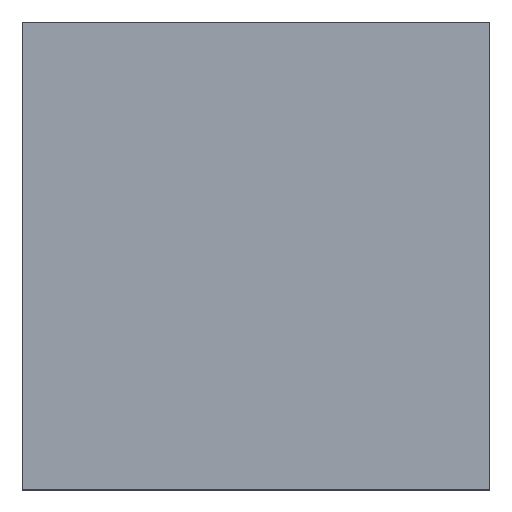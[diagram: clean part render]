
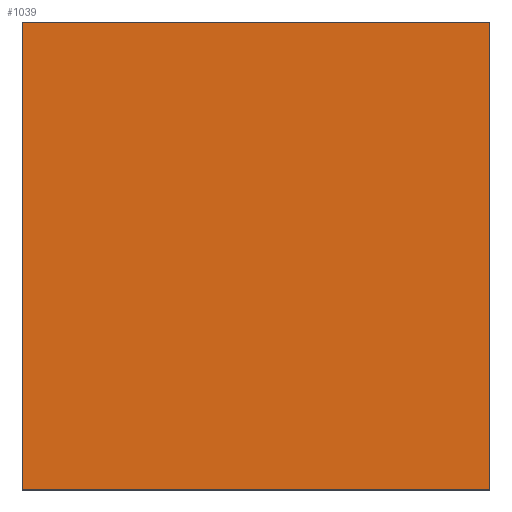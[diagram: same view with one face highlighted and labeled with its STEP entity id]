
A CAD part, top view. The second image highlights one B-rep face of the part: STEP entity #1039.
In plain terms, the highlighted planar face has unit normal (0, 0, 1).
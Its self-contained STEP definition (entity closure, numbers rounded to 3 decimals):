
#64 = VECTOR ( 'NONE', #1233, 1000. ) ;
#139 = CARTESIAN_POINT ( 'NONE',  ( 32193.958, 20226.989, -0.25 ) ) ;
#155 = LINE ( 'NONE', #473, #330 ) ;
#204 = LINE ( 'NONE', #139, #481 ) ;
#295 = DIRECTION ( 'NONE',  ( -1., 0., 0. ) ) ;
#316 = LINE ( 'NONE', #1050, #837 ) ;
#330 = VECTOR ( 'NONE', #295, 1000. ) ;
#338 = ORIENTED_EDGE ( 'NONE', *, *, #968, .T. ) ;
#357 = CARTESIAN_POINT ( 'NONE',  ( 32223.958, 20226.989, -0.25 ) ) ;
#407 = CARTESIAN_POINT ( 'NONE',  ( 32223.958, 20226.989, -0.25 ) ) ;
#416 = EDGE_LOOP ( 'NONE', ( #732, #443, #1109, #338 ) ) ;
#443 = ORIENTED_EDGE ( 'NONE', *, *, #1156, .T. ) ;
#473 = CARTESIAN_POINT ( 'NONE',  ( 32223.958, 20256.989, -0.25 ) ) ;
#481 = VECTOR ( 'NONE', #1266, 1000. ) ;
#587 = VERTEX_POINT ( 'NONE', #1089 ) ;
#655 = AXIS2_PLACEMENT_3D ( 'NONE', #669, #1070, #874 ) ;
#669 = CARTESIAN_POINT ( 'NONE',  ( 0., 0., -0.25 ) ) ;
#687 = EDGE_CURVE ( 'NONE', #1158, #587, #316, .T. ) ;
#694 = CARTESIAN_POINT ( 'NONE',  ( 32193.958, 20256.989, -0.25 ) ) ;
#732 = ORIENTED_EDGE ( 'NONE', *, *, #1225, .T. ) ;
#764 = PLANE ( 'NONE',  #655 ) ;
#837 = VECTOR ( 'NONE', #946, 1000. ) ;
#853 = VERTEX_POINT ( 'NONE', #865 ) ;
#865 = CARTESIAN_POINT ( 'NONE',  ( 32223.958, 20256.989, -0.25 ) ) ;
#874 = DIRECTION ( 'NONE',  ( 1., 0., 0. ) ) ;
#946 = DIRECTION ( 'NONE',  ( 0., -1., 0. ) ) ;
#968 = EDGE_CURVE ( 'NONE', #587, #1048, #204, .T. ) ;
#1039 = ADVANCED_FACE ( 'NONE', ( #1279 ), #764, .T. ) ;
#1048 = VERTEX_POINT ( 'NONE', #357 ) ;
#1050 = CARTESIAN_POINT ( 'NONE',  ( 32193.958, 20256.989, -0.25 ) ) ;
#1070 = DIRECTION ( 'NONE',  ( 0., 0., 1. ) ) ;
#1089 = CARTESIAN_POINT ( 'NONE',  ( 32193.958, 20226.989, -0.25 ) ) ;
#1095 = LINE ( 'NONE', #407, #64 ) ;
#1109 = ORIENTED_EDGE ( 'NONE', *, *, #687, .T. ) ;
#1156 = EDGE_CURVE ( 'NONE', #853, #1158, #155, .T. ) ;
#1158 = VERTEX_POINT ( 'NONE', #694 ) ;
#1225 = EDGE_CURVE ( 'NONE', #1048, #853, #1095, .T. ) ;
#1233 = DIRECTION ( 'NONE',  ( 0., 1., 0. ) ) ;
#1266 = DIRECTION ( 'NONE',  ( 1., 0., 0. ) ) ;
#1279 = FACE_OUTER_BOUND ( 'NONE', #416, .T. ) ;
